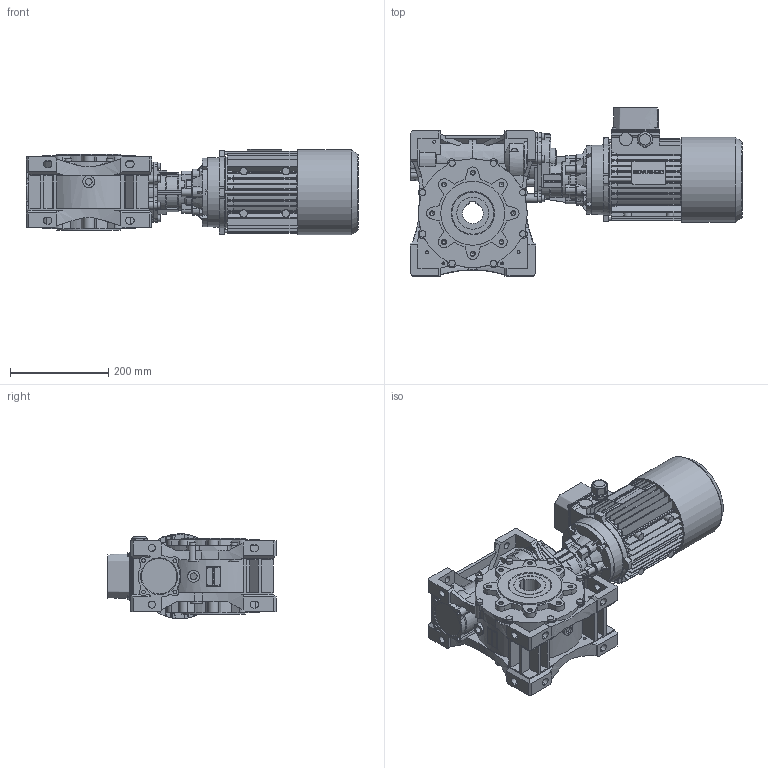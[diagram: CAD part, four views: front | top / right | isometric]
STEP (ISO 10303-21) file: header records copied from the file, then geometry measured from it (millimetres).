
FILE_DESCRIPTION(/* description */ ('STEP AP203'),/* implementation_level */ '2;1');
FILE_NAME(/* name */ 'NMRVP_HW 040-110 62.11 (3.11x20) 140x24 42 NO NO - - NO - - - NO TP 090L 90L41(--------)',/* time_stamp */ '2023-06-26T06:02:24+02:00',/* author */ ('License CC BY-ND 4.0'),/* organization */ ('CADENAS'),/* preprocessor_version */ 'ST-DEVELOPER v19.3',/* originating_system */ 'PARTsolutions',/* authorisation */ ' ');
FILE_SCHEMA (('CONFIG_CONTROL_DESIGN'));
Length unit declared in the file: millimetre
Products named in the file (15): NMRVP/HW 040-110 62.11 (3.11x20) 140x24 42 NO NO - - NO - - - NO TP 0
90L 90L41(--------); PC.040.27.24.M; ALBERO_TP090L24X50NO; TIPPO_25; PRESSACAVO_3; COPRIMORSETTIERA_TP090LA002; COP_TP_90L4_IC411_NO_-_-_-_-_STD; CARCASSA_TP90L4090LIC411B1424X50NONO--; FLANGIA_TP090LB14-; 6390 B14; HW40; 110-65; W.110.14.19.M-phw; 110-42 (155); W.110.01.M
Assembly tree (14 placements, depth 2):
  NMRVP/HW 040-110 62.11 (3.11x20) 140x24 42 NO NO - - NO - - - NO TP 0
90L 90L41(--------)
    PC.040.27.24.M
    ALBERO_TP090L24X50NO
    TIPPO_25
    PRESSACAVO_3
    COPRIMORSETTIERA_TP090LA002
    COP_TP_90L4_IC411_NO_-_-_-_-_STD
    CARCASSA_TP90L4090LIC411B1424X50NONO--
    FLANGIA_TP090LB14-
    6390 B14
    HW40
    110-65
    W.110.14.19.M-phw
    110-42 (155)
    W.110.01.M
Bounding box: 674.5 x 341.6 x 174.15 mm (x, y, z)
Volume: 14920159.8 mm3; surface area: 1238333.5 mm2
Topology: 14 solids, 18 shells, 3573 faces, 9760 edges, 6435 vertices
Faces by surface type: plane 1850, cylinder 1470, cone 237, torus 10, sphere 5, bspline 1
Full cylindrical faces by diameter (mm): 1.8 x1, 2.02 x1, 5.5 x2, 6 x14, 6.647 x1, 7.45 x12, 7.65 x4, 8 x12, 8.376 x16, 8.4 x1, 13 x20, 14 x8, 14.5 x2, 18 x1, 24 x3, 25 x4, 30 x1, 32 x1, 39 x1, 40 x1, 41 x1, 55 x1, 56 x1, 63 x1, 65 x3, 68 x2, 90 x3, 95 x1, 130 x2, 140 x2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
Entity records: 134480 total; most frequent: CARTESIAN_POINT 21507, DIRECTION 19592, ORIENTED_EDGE 19020, EDGE_CURVE 9510, AXIS2_PLACEMENT_3D 7061, VERTEX_POINT 6391, LINE 5470, VECTOR 5470
